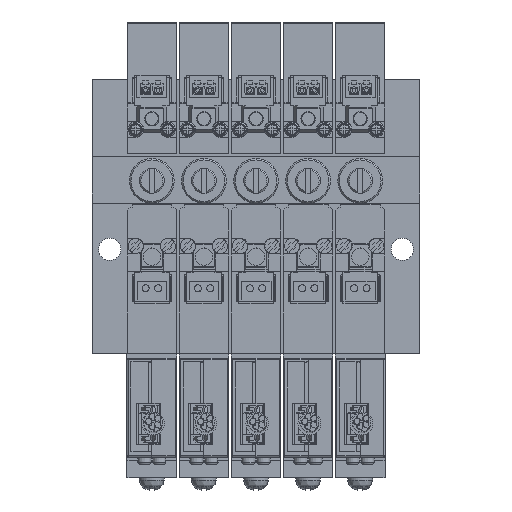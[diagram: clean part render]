
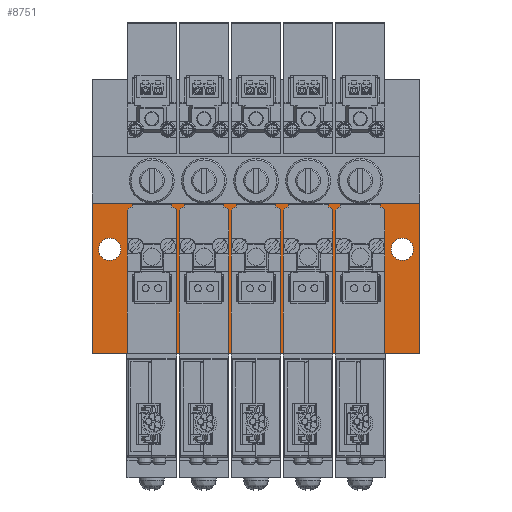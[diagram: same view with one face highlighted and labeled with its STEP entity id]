
A CAD part, top view. The second image highlights one B-rep face of the part: STEP entity #8751.
In plain terms, the highlighted planar face has unit normal (0, 0, 1).
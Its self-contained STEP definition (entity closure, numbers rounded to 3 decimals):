
#8751=ADVANCED_FACE('',(#15165,#15166,#15167),#15168,.F.);
#15165=FACE_BOUND('',#28272,.T.);
#15166=FACE_BOUND('',#28273,.T.);
#15167=FACE_OUTER_BOUND('',#28274,.T.);
#15168=PLANE('',#28275);
#28272=EDGE_LOOP('',(#43172));
#28273=EDGE_LOOP('',(#43173));
#28274=EDGE_LOOP('',(#43174,#43175,#43176,#43177));
#28275=AXIS2_PLACEMENT_3D('',#43178,#43179,#43180);
#43172=ORIENTED_EDGE('',*,*,#93820,.F.);
#43173=ORIENTED_EDGE('',*,*,#93821,.F.);
#43174=ORIENTED_EDGE('',*,*,#93822,.F.);
#43175=ORIENTED_EDGE('',*,*,#93823,.F.);
#43176=ORIENTED_EDGE('',*,*,#93824,.T.);
#43177=ORIENTED_EDGE('',*,*,#93818,.T.);
#43178=CARTESIAN_POINT('',(-66.0,30.3,14.8));
#43179=DIRECTION('',(0.0,0.0,-1.0));
#43180=DIRECTION('',(1.0,0.0,0.0));
#93818=EDGE_CURVE('',#110145,#110143,#110146,.T.);
#93820=EDGE_CURVE('',#110148,#110148,#110149,.T.);
#93821=EDGE_CURVE('',#110150,#110150,#110151,.T.);
#93822=EDGE_CURVE('',#110152,#110143,#110153,.T.);
#93823=EDGE_CURVE('',#110154,#110152,#110155,.T.);
#93824=EDGE_CURVE('',#110154,#110145,#110156,.T.);
#110143=VERTEX_POINT('',#137531);
#110145=VERTEX_POINT('',#137534);
#110146=LINE('',#137535,#137536);
#110148=VERTEX_POINT('',#137539);
#110149=CIRCLE('',#137540,2.25);
#110150=VERTEX_POINT('',#137541);
#110151=CIRCLE('',#137542,2.25);
#110152=VERTEX_POINT('',#137543);
#110153=LINE('',#137544,#137545);
#110154=VERTEX_POINT('',#137546);
#110155=LINE('',#137547,#137548);
#110156=LINE('',#137549,#137550);
#137531=CARTESIAN_POINT('',(0.0,0.,14.8));
#137534=CARTESIAN_POINT('',(-66.0,0.,14.8));
#137535=CARTESIAN_POINT('',(-66.0,0.,14.8));
#137536=VECTOR('',#181015,1.0);
#137539=CARTESIAN_POINT('',(-60.25,21.0,14.8));
#137540=AXIS2_PLACEMENT_3D('',#181017,#181018,#181019);
#137541=CARTESIAN_POINT('',(-1.25,21.0,14.8));
#137542=AXIS2_PLACEMENT_3D('',#181020,#181021,#181022);
#137543=CARTESIAN_POINT('',(0.0,30.3,14.8));
#137544=CARTESIAN_POINT('',(0.0,30.3,14.8));
#137545=VECTOR('',#181023,1.0);
#137546=CARTESIAN_POINT('',(-66.0,30.3,14.8));
#137547=CARTESIAN_POINT('',(-66.0,30.3,14.8));
#137548=VECTOR('',#181024,1.0);
#137549=CARTESIAN_POINT('',(-66.0,30.3,14.8));
#137550=VECTOR('',#181025,1.0);
#181015=DIRECTION('',(1.0,0.0,0.0));
#181017=CARTESIAN_POINT('',(-62.5,21.0,14.8));
#181018=DIRECTION('',(0.0,0.0,1.0));
#181019=DIRECTION('',(1.0,0.0,0.0));
#181020=CARTESIAN_POINT('',(-3.5,21.0,14.8));
#181021=DIRECTION('',(0.0,0.0,1.0));
#181022=DIRECTION('',(1.0,0.0,0.0));
#181023=DIRECTION('',(0.0,-1.0,0.0));
#181024=DIRECTION('',(1.0,0.0,0.0));
#181025=DIRECTION('',(0.0,-1.0,0.0));
